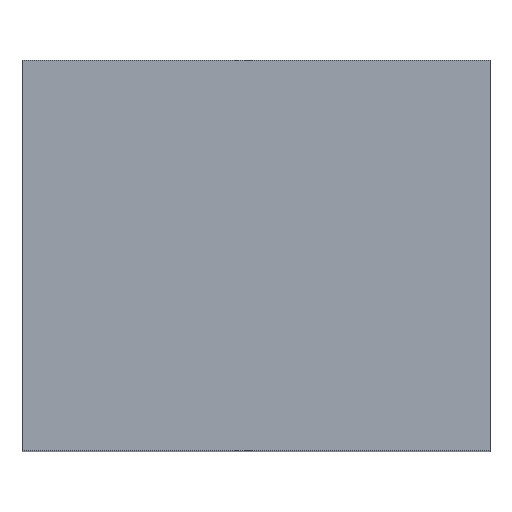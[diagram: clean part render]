
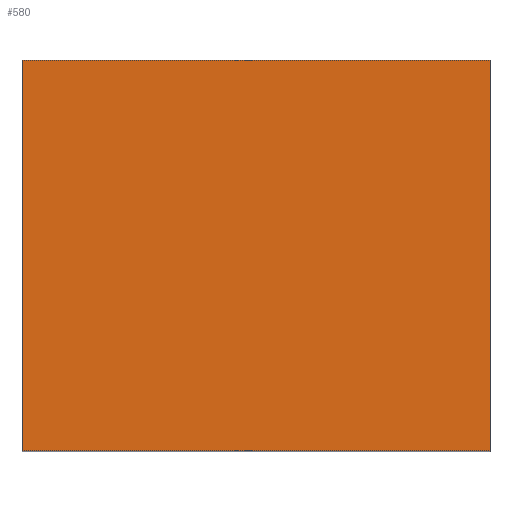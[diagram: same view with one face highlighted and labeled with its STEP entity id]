
A CAD part, top view. The second image highlights one B-rep face of the part: STEP entity #580.
In plain terms, the highlighted planar face has unit normal (0, 0, 1).
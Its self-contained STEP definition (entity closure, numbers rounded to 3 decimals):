
#47=FACE_OUTER_BOUND('',#81,.T.);
#81=EDGE_LOOP('',(#486,#487,#488,#489));
#147=LINE('',#885,#219);
#150=LINE('',#890,#222);
#151=LINE('',#893,#223);
#153=LINE('',#896,#225);
#219=VECTOR('',#732,11.5);
#222=VECTOR('',#737,9.6);
#223=VECTOR('',#740,9.6);
#225=VECTOR('',#744,11.5);
#270=VERTEX_POINT('',#882);
#271=VERTEX_POINT('',#884);
#272=VERTEX_POINT('',#888);
#273=VERTEX_POINT('',#892);
#339=EDGE_CURVE('',#271,#270,#147,.T.);
#342=EDGE_CURVE('',#270,#272,#150,.T.);
#343=EDGE_CURVE('',#273,#271,#151,.T.);
#345=EDGE_CURVE('',#272,#273,#153,.T.);
#486=ORIENTED_EDGE('',*,*,#345,.T.);
#487=ORIENTED_EDGE('',*,*,#343,.T.);
#488=ORIENTED_EDGE('',*,*,#339,.T.);
#489=ORIENTED_EDGE('',*,*,#342,.T.);
#519=PLANE('',#612);
#580=ADVANCED_FACE('',(#47),#519,.T.);
#612=AXIS2_PLACEMENT_3D('',#897,#745,#746);
#732=DIRECTION('',(1.,0.,0.));
#737=DIRECTION('',(0.,1.,0.));
#740=DIRECTION('',(0.,-1.,0.));
#744=DIRECTION('',(-1.,0.,0.));
#745=DIRECTION('center_axis',(0.,0.,1.));
#746=DIRECTION('ref_axis',(1.,0.,0.));
#882=CARTESIAN_POINT('',(5.75,-4.8,10.2));
#884=CARTESIAN_POINT('',(-5.75,-4.8,10.2));
#885=CARTESIAN_POINT('',(5.75,-4.8,10.2));
#888=CARTESIAN_POINT('',(5.75,4.8,10.2));
#890=CARTESIAN_POINT('',(5.75,4.8,10.2));
#892=CARTESIAN_POINT('',(-5.75,4.8,10.2));
#893=CARTESIAN_POINT('',(-5.75,-4.8,10.2));
#896=CARTESIAN_POINT('',(-5.75,4.8,10.2));
#897=CARTESIAN_POINT('Origin',(0.,0.,10.2));
